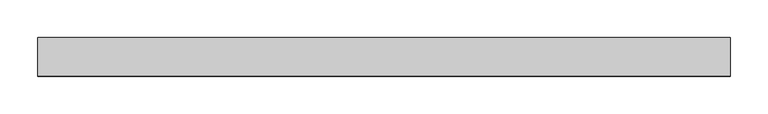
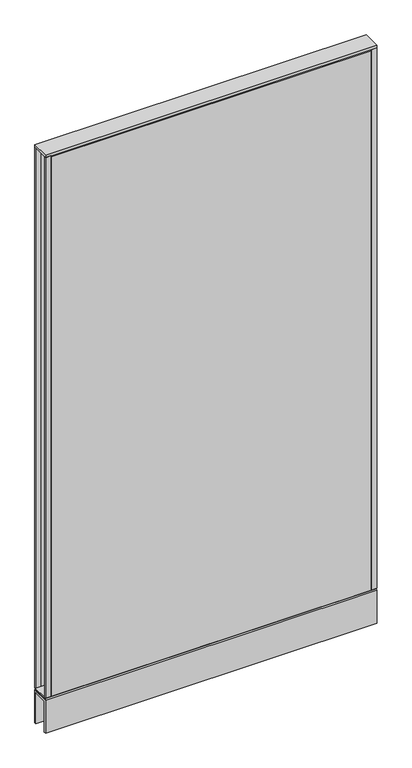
"""IFC4 building model written with IfcOpenShell, lengths in millimetres: furniture geometry, Steelcase - Kick Solutions - Panel - Monolithic - Tackable Acoustical : 66H x 36W."""

from ifc_helpers import new_model, si_unit, frame, origin, place, context, project, spatial, polyline, outline, extrude, source, transform, mapped, element, save


def furniture_d9d3ce15(model_context):
    return source(origin(), model_context, "Body", "SweptSolid", [
        extrude(outline(polyline([(0.0, 101.7169049), (-3.1750015, 101.7169049), (-3.1750015, 1676.5169018), (0.0, 1673.4357466), (0.0, 101.7169049)])), frame((15.8749996, 0.0, 0.0), z_axis=(1.0, 0.0, 0.0), x_axis=(0.0, 1.0, 0.0)), (0.0, 0.0, 1.0), 882.6500008),
        extrude(outline(polyline([(-50.8000015, 101.7169049), (-50.8000015, 1673.4357466), (-47.625, 1676.5169018), (-47.625, 101.7169049), (-50.8000015, 101.7169049)])), frame((15.8749996, 0.0, 0.0), z_axis=(1.0, 0.0, 0.0), x_axis=(0.0, 1.0, 0.0)), (0.0, 0.0, 1.0), 882.6500008),
        extrude(outline(polyline([(914.4, -3.1750015), (898.5250004, -3.1750015), (898.5250004, 0.0), (914.4, 0.0), (914.4, -3.1750015)])), frame((0.0, 0.0, 101.7169049), z_axis=(0.0, 0.0, 1.0), x_axis=(1.0, 0.0, 0.0)), (0.0, 0.0, 1.0), 1574.799997),
        extrude(outline(polyline([(15.8749996, -50.8000015), (0.0, -50.8000015), (0.0, -47.625), (15.8749996, -47.625), (15.8749996, -50.8000015)])), frame((0.0, 0.0, 101.7169049), z_axis=(0.0, 0.0, 1.0), x_axis=(1.0, 0.0, 0.0)), (0.0, 0.0, 1.0), 1574.799997),
        extrude(outline(polyline([(-50.7995075, 101.7169049), (-0.000494, 101.7169049), (-3.0583512, 98.5421458), (-47.7416503, 98.5421458), (-50.7995075, 101.7169049)])), frame((0.0, 0.0, 0.0), z_axis=(1.0, 0.0, 0.0), x_axis=(0.0, 1.0, 0.0)), (0.0, 0.0, 1.0), 914.4),
        extrude(outline(polyline([(914.4, 0.0), (914.4, -50.8000015), (0.0, -50.8000015), (0.0, 0.0), (914.4, 0.0)])), frame((0.0, 0.0, 1676.5169018), z_axis=(0.0, 0.0, 1.0), x_axis=(1.0, 0.0, 0.0)), (0.0, 0.0, 1.0), 6.35),
        extrude(outline(polyline([(15.8749996, -3.1750015), (0.0, -3.1750015), (0.0, 0.0), (15.8749996, 0.0), (15.8749996, -3.1750015)])), frame((0.0, 0.0, 101.7169049), z_axis=(0.0, 0.0, 1.0), x_axis=(1.0, 0.0, 0.0)), (0.0, 0.0, 1.0), 1574.799997),
        extrude(outline(polyline([(914.4, -50.8000015), (898.5250004, -50.8000015), (898.5250004, -47.625), (914.4, -47.625), (914.4, -50.8000015)])), frame((0.0, 0.0, 101.7169049), z_axis=(0.0, 0.0, 1.0), x_axis=(1.0, 0.0, 0.0)), (0.0, 0.0, 1.0), 1574.799997),
        extrude(outline(polyline([(-50.8000015, 95.3668927), (-47.6247484, 98.5421458), (-3.1752531, 98.5421458), (0.0, 95.3668927), (-50.8000015, 95.3668927)])), frame((0.0, 0.0, 0.0), z_axis=(1.0, 0.0, 0.0), x_axis=(0.0, 1.0, 0.0)), (0.0, 0.0, 1.0), 914.4),
        extrude(outline(polyline([(0.0, 0.0), (-5.08, 0.0), (-5.08, 90.2869018), (-45.7200015, 90.2869018), (-45.7200015, 0.0), (-50.8000015, 0.0), (-50.8000015, 95.3669018), (0.0, 95.3669018), (0.0, 0.0)])), frame((0.0, 0.0, 0.0), z_axis=(1.0, 0.0, 0.0), x_axis=(0.0, 1.0, 0.0)), (0.0, 0.0, 1.0), 914.4),
    ])


if __name__ == "__main__":
    model = new_model("IFC4")
    model_context = context("Model", 3, world=origin())
    ifc_project = project(units=[si_unit("LENGTHUNIT", "METRE", prefix="MILLI")], contexts=[model_context])
    site = spatial("IfcSite", under=ifc_project)
    building = spatial("IfcBuilding", under=site)
    placement = place(None, origin())
    furniture_shape = furniture_d9d3ce15(model_context)
    element("IfcFurniture", 1, ObjectType="Steelcase - Kick Solutions - Panel - Monolithic - Tackable Acoustical : 66H x 36W", at=placement, inside=building, context=model_context, shape_type="MappedRepresentation", body=[
        mapped(furniture_shape, transform((0.0, 0.0, 0.0), x_axis=(1.0, 0.0, 0.0), y_axis=(0.0, 1.0, 0.0), z_axis=(0.0, 0.0, 1.0))),
    ])
    save(model, "model.ifc")
